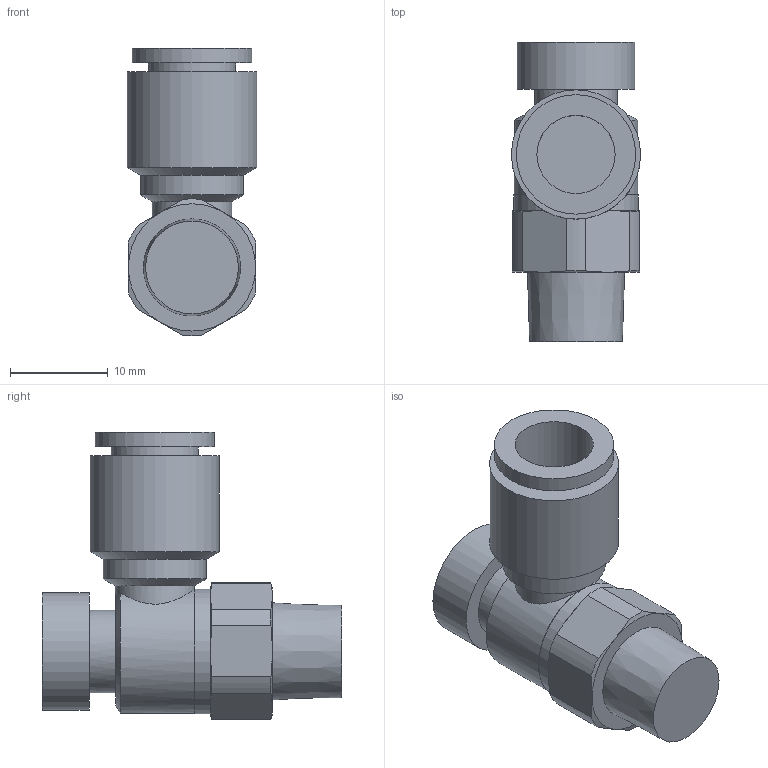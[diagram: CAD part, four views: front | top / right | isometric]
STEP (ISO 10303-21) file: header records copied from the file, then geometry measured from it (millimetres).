
FILE_DESCRIPTION(/* description */ ('STEP AP214'),/* implementation_level */ '2;1');
FILE_NAME(/* name */ 'AS2201F-01-08SA',/* time_stamp */ '2024-10-24T14:06:02+02:00',/* author */ ('License CC BY-ND 4.0'),/* organization */ ('CADENAS'),/* preprocessor_version */ 'ST-DEVELOPER v19.3',/* originating_system */ 'PARTsolutions',/* authorisation */ ' ');
FILE_SCHEMA (('AUTOMOTIVE_DESIGN {1 0 10303 214 3 1 1}'));
Length unit declared in the file: millimetre
Products named in the file (1): AS2201F-01-08SA
Bounding box: 13.2 x 30.6 x 29.39 mm (x, y, z)
Volume: 4534 mm3; surface area: 2733.2 mm2
Topology: 1 solids, 1 shells, 49 faces, 104 edges, 64 vertices
Faces by surface type: plane 17, cone 16, cylinder 16
Full cylindrical faces by diameter (mm): 8 x1, 8.1 x1, 8.45 x1, 8.9 x1, 10.5 x1, 12 x1, 12.2 x1, 12.6 x1, 12.7 x1, 13.2 x1
Entity records: 1297 total; most frequent: CARTESIAN_POINT 298, DIRECTION 206, ORIENTED_EDGE 176, AXIS2_PLACEMENT_3D 96, EDGE_CURVE 88, EDGE_LOOP 69, FACE_BOUND 69, VERTEX_POINT 61
